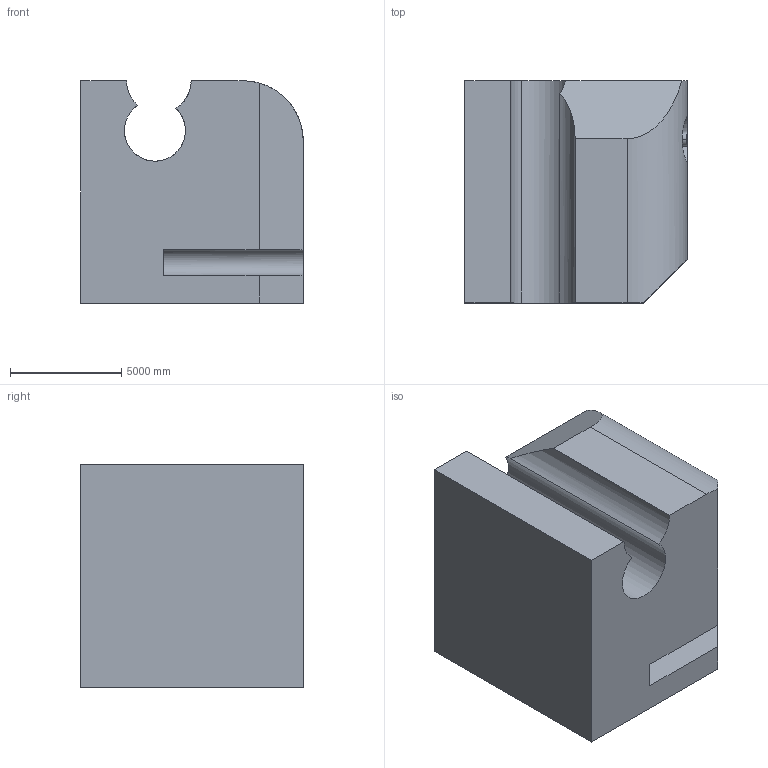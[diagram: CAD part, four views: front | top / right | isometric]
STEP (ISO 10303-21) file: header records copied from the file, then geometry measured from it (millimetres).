
FILE_DESCRIPTION (( 'STEP AP203' ), '1' );
FILE_NAME ('124.STEP', '2022-08-31T11:44:11', ( 'user' ), ( '' ), 'SwSTEP 2.0', 'SolidWorks 2021', '' );
FILE_SCHEMA (( 'CONFIG_CONTROL_DESIGN' ));
Length unit declared in the file: centimetre
Products named in the file (1): 124
Bounding box: 10000 x 10000 x 10000 mm (x, y, z)
Volume: 843211280157.3 mm3; surface area: 675506330 mm2
Topology: 1 solids, 1 shells, 25 faces, 66 edges, 44 vertices
Faces by surface type: plane 15, cylinder 10
Entity records: 1062 total; most frequent: CARTESIAN_POINT 370, ORIENTED_EDGE 132, DIRECTION 125, EDGE_CURVE 66, VERTEX_POINT 44, AXIS2_PLACEMENT_3D 43, LINE 39, VECTOR 39
